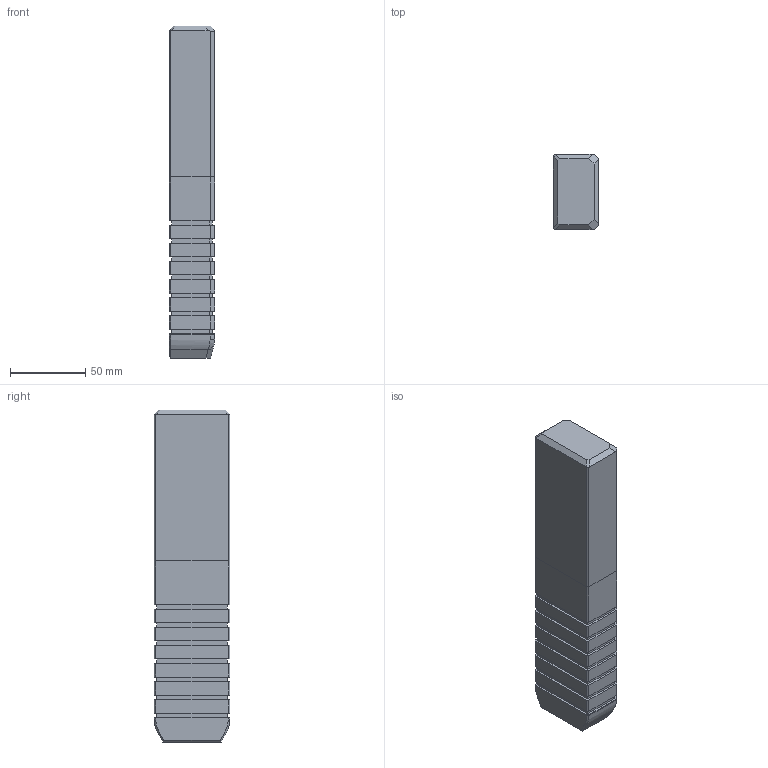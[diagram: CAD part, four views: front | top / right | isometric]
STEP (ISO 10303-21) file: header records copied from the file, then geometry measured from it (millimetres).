
FILE_DESCRIPTION((''),'2;1');
FILE_NAME('','2010-08-30T13:16:05+09:00',('misumi'),(''),'M/STEP i/f 1R2-14','CADmeister v5.1','');
FILE_SCHEMA(('AUTOMOTIVE_DESIGN'));
Length unit declared in the file: millimetre
Products named in the file (1): GWZ50-220
Bounding box: 30 x 50 x 220 mm (x, y, z)
Volume: 319870.1 mm3; surface area: 39262.8 mm2
Topology: 1 solids, 1 shells, 171 faces, 443 edges, 288 vertices
Faces by surface type: plane 160, bspline 6, cylinder 3, cone 2
Entity records: 5459 total; most frequent: CARTESIAN_POINT 1245, ORIENTED_EDGE 886, DIRECTION 761, EDGE_CURVE 443, LINE 421, VECTOR 421, VERTEX_POINT 288, EDGE_LOOP 185
